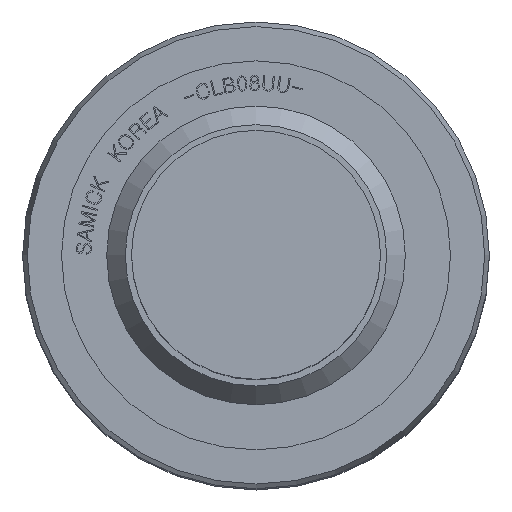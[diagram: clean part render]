
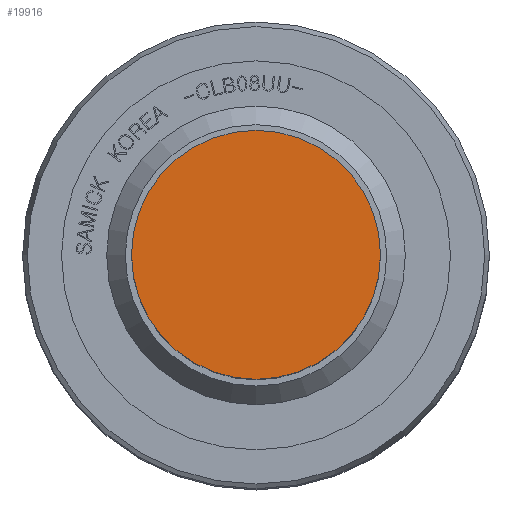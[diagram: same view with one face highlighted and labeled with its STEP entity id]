
A CAD part, top view. The second image highlights one B-rep face of the part: STEP entity #19916.
In plain terms, the highlighted planar face has unit normal (0, 0, 1).
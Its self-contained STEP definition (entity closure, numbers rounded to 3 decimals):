
#781=PLANE('',#21091);
#2599=FACE_OUTER_BOUND('',#3701,.T.);
#3701=EDGE_LOOP('',(#12990));
#4871=CIRCLE('',#21085,4.);
#7915=VERTEX_POINT('',#24603);
#9929=EDGE_CURVE('',#7915,#7915,#4871,.T.);
#12990=ORIENTED_EDGE('',*,*,#9929,.T.);
#19916=ADVANCED_FACE('',(#2599),#781,.T.);
#21085=AXIS2_PLACEMENT_3D('',#24604,#21871,#21872);
#21091=AXIS2_PLACEMENT_3D('',#24615,#21885,#21886);
#21871=DIRECTION('center_axis',(0.,0.,1.));
#21872=DIRECTION('ref_axis',(-1.,0.,0.));
#21885=DIRECTION('center_axis',(0.,0.,1.));
#21886=DIRECTION('ref_axis',(1.,0.,0.));
#24603=CARTESIAN_POINT('',(4.,0.,22.));
#24604=CARTESIAN_POINT('Origin',(0.,0.,
22.));
#24615=CARTESIAN_POINT('Origin',(0.,0.,
22.));
